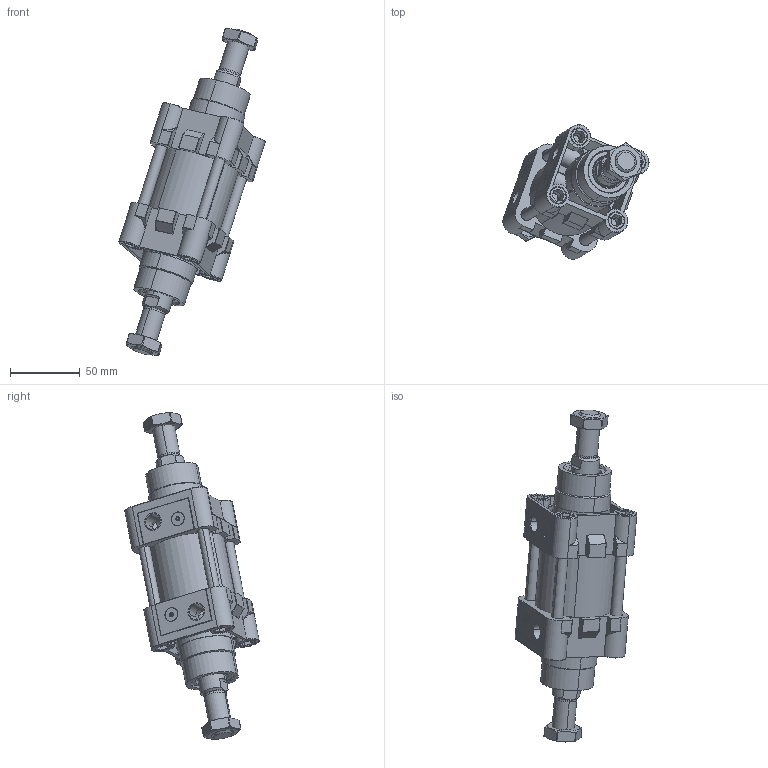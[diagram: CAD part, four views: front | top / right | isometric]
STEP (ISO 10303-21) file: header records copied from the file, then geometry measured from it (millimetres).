
FILE_DESCRIPTION (( 'STEP AP203' ), '1' );
FILE_NAME ('TDNC50X0CIFTMILLI-CYLINDER.STEP', '2014-07-01T07:21:15', ( 'user' ), ( '' ), 'SwSTEP 2.0', 'SolidWorks 2013', '' );
FILE_SCHEMA (( 'CONFIG_CONTROL_DESIGN' ));
Length unit declared in the file: millimetre
Products named in the file (19): TDNC 50x0 BORU; 烰 KAPAK  50; TDNC 50x0 SAPLAMA; YASTIKLAMA KEÇESÝ 50; ORTA PÝSTON 50 Çift Milli; SAPLAMALI M尳 50x0; KAPAK O-RÝNGÝ 50; PÝSTON KEÇESÝ 50; TDNC50X0CIFTMILLI-CYLINDER; ﾖN MﾝL KEﾇESﾝ 50; YATAKLAMA BANDI 50; YASTIKLAMA VÝDASI 50; MIKNATIS 50; YASTIKLAMA VÝDASI O-RÝNG 50; ORTA PÝSTON O-RÝNG 50 ; PUL 50; Piston Mili 50x0; CIVATA 50; SOMUN 50
Assembly tree (39 placements, depth 2):
  TDNC50X0CIFTMILLI-CYLINDER
    ORTA PÝSTON 50 Çift Milli
    PÝSTON KEÇESÝ 50  x2
    YATAKLAMA BANDI 50
    MIKNATIS 50  x2
    ORTA PÝSTON O-RÝNG 50   x2
    Piston Mili 50x0
    SOMUN 50  x2
    烰 KAPAK  50  x2
    YASTIKLAMA KEÇESÝ 50  x2
    KAPAK O-RÝNGÝ 50  x2
    ﾖN MﾝL KEﾇESﾝ 50  x2
    YASTIKLAMA VÝDASI 50  x2
    YASTIKLAMA VÝDASI O-RÝNG 50
    PUL 50  x2
    CIVATA 50  x9
    TDNC 50x0 BORU
    TDNC 50x0 SAPLAMA  x4
    SAPLAMALI M尳 50x0
Bounding box: 104.77 x 96.26 x 234.36 mm (x, y, z)
Volume: 341070.4 mm3; surface area: 189228.5 mm2
Topology: 42 solids, 48 shells, 1673 faces, 3925 edges, 2450 vertices
Faces by surface type: plane 653, cylinder 536, cone 324, torus 140, bspline 16, sphere 4
Entity records: 28326 total; most frequent: CARTESIAN_POINT 6576, DIRECTION 4120, ORIENTED_EDGE 3924, EDGE_CURVE 1962, AXIS2_PLACEMENT_3D 1676, VERTEX_POINT 1242, EDGE_LOOP 944, ADVANCED_FACE 833
